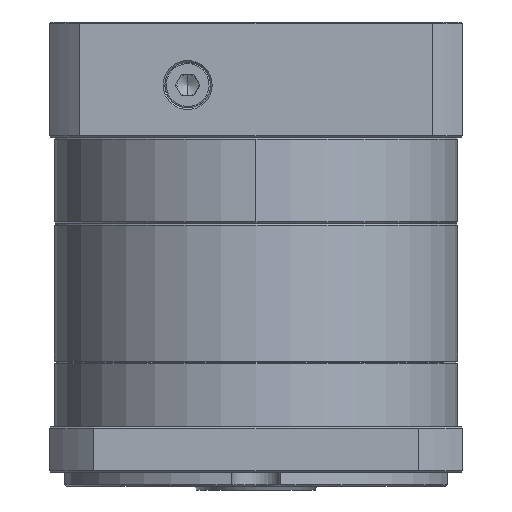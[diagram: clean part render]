
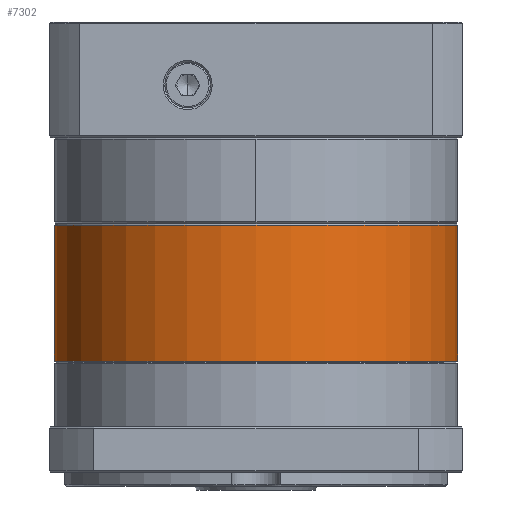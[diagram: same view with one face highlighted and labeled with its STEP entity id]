
A CAD part, front view. The second image highlights one B-rep face of the part: STEP entity #7302.
In plain terms, the highlighted cylindrical face has radius 57.5 mm (diameter 115 mm), a partial arc.
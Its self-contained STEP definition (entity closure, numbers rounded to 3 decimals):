
#2054 = CARTESIAN_POINT ( 'NONE',  ( -89.533, -2.282, 188.502 ) ) ;
#3997 = ORIENTED_EDGE ( 'NONE', *, *, #15152, .T. ) ;
#7302 = ADVANCED_FACE ( 'NONE', ( #82538 ), #61182, .T. ) ;
#7394 = VERTEX_POINT ( 'NONE', #2054 ) ;
#10609 = DIRECTION ( 'NONE',  ( 0., 0., 1. ) ) ;
#15152 = EDGE_CURVE ( 'NONE', #7394, #80449, #82303, .T. ) ;
#22659 = CARTESIAN_POINT ( 'NONE',  ( 25.467, -2.282, 189.002 ) ) ;
#23919 = LINE ( 'NONE', #22659, #42367 ) ;
#29898 = ORIENTED_EDGE ( 'NONE', *, *, #111376, .T. ) ;
#30405 = EDGE_CURVE ( 'NONE', #46351, #51241, #23919, .T. ) ;
#38800 = CARTESIAN_POINT ( 'NONE',  ( 25.467, -2.282, 188.502 ) ) ;
#39794 = DIRECTION ( 'NONE',  ( -1., 0., 0. ) ) ;
#42333 = CARTESIAN_POINT ( 'NONE',  ( -32.033, -2.282, 149.791 ) ) ;
#42367 = VECTOR ( 'NONE', #71464, 1000. ) ;
#45074 = EDGE_LOOP ( 'NONE', ( #57674, #79583, #3997, #29898 ) ) ;
#46351 = VERTEX_POINT ( 'NONE', #38800 ) ;
#51241 = VERTEX_POINT ( 'NONE', #113726 ) ;
#51602 = VECTOR ( 'NONE', #117721, 1000. ) ;
#55461 = AXIS2_PLACEMENT_3D ( 'NONE', #126655, #10609, #39794 ) ;
#57674 = ORIENTED_EDGE ( 'NONE', *, *, #30405, .F. ) ;
#59362 = CARTESIAN_POINT ( 'NONE',  ( -32.033, -2.282, 189.002 ) ) ;
#59860 = CARTESIAN_POINT ( 'NONE',  ( -89.533, -2.282, 189.002 ) ) ;
#61182 = CYLINDRICAL_SURFACE ( 'NONE', #120537, 57.5 ) ;
#61954 = DIRECTION ( 'NONE',  ( 0., 0., 1. ) ) ;
#67633 = CARTESIAN_POINT ( 'NONE',  ( -89.533, -2.282, 149.791 ) ) ;
#71464 = DIRECTION ( 'NONE',  ( 0., 0., -1. ) ) ;
#76945 = CIRCLE ( 'NONE', #106449, 57.5 ) ;
#79583 = ORIENTED_EDGE ( 'NONE', *, *, #120900, .F. ) ;
#80449 = VERTEX_POINT ( 'NONE', #67633 ) ;
#82303 = LINE ( 'NONE', #59860, #51602 ) ;
#82538 = FACE_OUTER_BOUND ( 'NONE', #45074, .T. ) ;
#83368 = DIRECTION ( 'NONE',  ( -1., 0., 0. ) ) ;
#85070 = CIRCLE ( 'NONE', #55461, 57.5 ) ;
#100555 = DIRECTION ( 'NONE',  ( 0., 0., -1. ) ) ;
#106449 = AXIS2_PLACEMENT_3D ( 'NONE', #42333, #61954, #112507 ) ;
#111376 = EDGE_CURVE ( 'NONE', #80449, #51241, #76945, .T. ) ;
#112507 = DIRECTION ( 'NONE',  ( -1., 0., 0. ) ) ;
#113726 = CARTESIAN_POINT ( 'NONE',  ( 25.467, -2.282, 149.791 ) ) ;
#117721 = DIRECTION ( 'NONE',  ( 0., 0., -1. ) ) ;
#120537 = AXIS2_PLACEMENT_3D ( 'NONE', #59362, #100555, #83368 ) ;
#120900 = EDGE_CURVE ( 'NONE', #7394, #46351, #85070, .T. ) ;
#126655 = CARTESIAN_POINT ( 'NONE',  ( -32.033, -2.282, 188.502 ) ) ;
